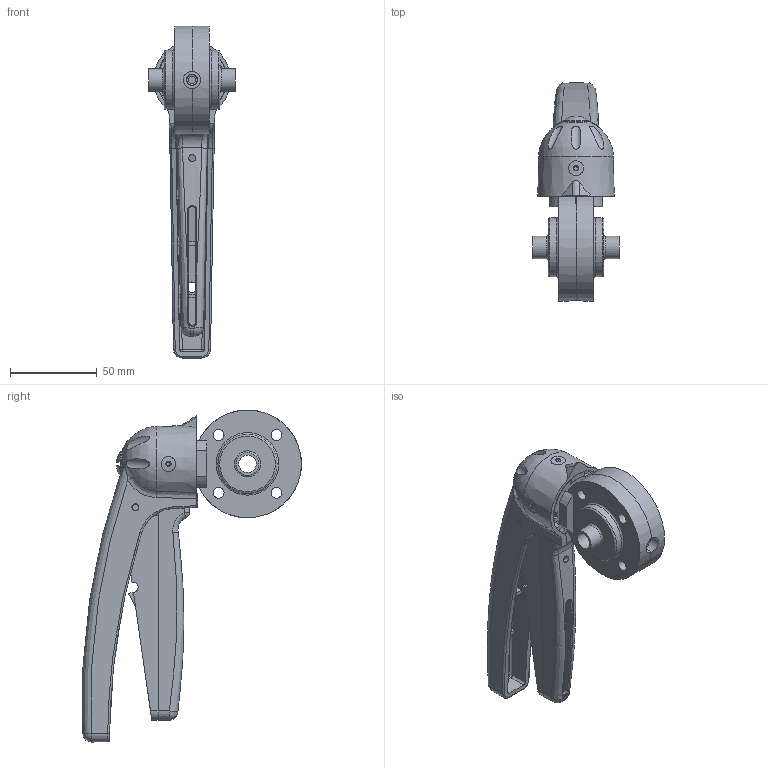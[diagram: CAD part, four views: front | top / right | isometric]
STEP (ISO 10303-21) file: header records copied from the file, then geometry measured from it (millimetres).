
FILE_DESCRIPTION(/* description */ ('VVF VALV.FARF.DN10 (13X1.5) SS EPDM 316 LEVA 5POS.'),/* implementation_level */ '2;1');
FILE_NAME(/* name */ 'C:\_DED_PWS\GIOR-G\DB\B\EBA\BEBACG010BEAA-00^SAGOMA.step',/* time_stamp */ '2020-11-27T10:27:42+01:00',/* author */ (''),/* organization */ (''),/* preprocessor_version */ 'ST-DEVELOPER v18',/* originating_system */ 'Autodesk Inventor 2020',/* authorisation */ '');
FILE_SCHEMA (('CONFIG_CONTROL_DESIGN'));
Length unit declared in the file: millimetre
Products named in the file (3): BEBACG010BEAA; Maniglia-5-posizioni-nuova-versione finale 01-2008- 25 - - 65; TWD006010BBA
Assembly tree (3 placements, depth 2):
  BEBACG010BEAA
    Maniglia-5-posizioni-nuova-versione finale 01-2008- 25 - - 65
    TWD006010BBA  x2
Bounding box: 50 x 125.89 x 191 mm (x, y, z)
Volume: 150154.2 mm3; surface area: 75601.6 mm2
Topology: 3 solids, 4 shells, 454 faces, 1227 edges, 798 vertices
Faces by surface type: plane 198, cylinder 110, bspline 81, cone 30, sphere 20, torus 15
Full cylindrical faces by diameter (mm): 4 x3, 6 x2, 6.2 x8, 6.5 x1, 10 x2, 13 x3, 14.5 x1, 21.1 x2, 28 x2, 34 x2, 62 x2
Entity records: 22841 total; most frequent: CARTESIAN_POINT 12146, ORIENTED_EDGE 2294, DIRECTION 1949, EDGE_CURVE 1147, VERTEX_POINT 740, AXIS2_PLACEMENT_3D 706, LINE 537, VECTOR 537
